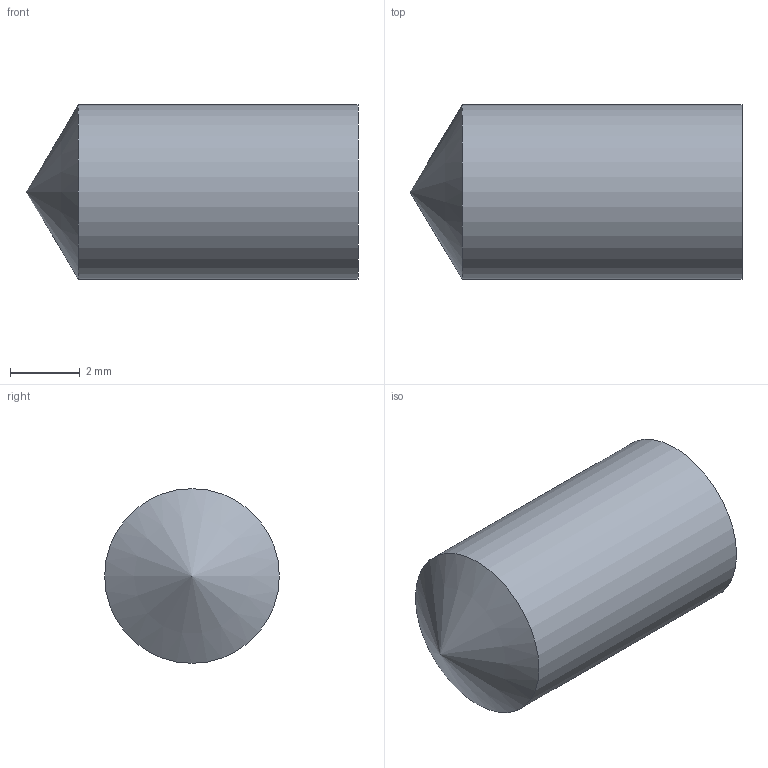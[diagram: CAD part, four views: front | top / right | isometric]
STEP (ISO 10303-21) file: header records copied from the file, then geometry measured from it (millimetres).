
FILE_DESCRIPTION(/* description */ (''),/* implementation_level */ '2;1');
FILE_NAME(/* name */ 'C:\Users\matthiask.LAMELLONET\Desktop\Bohrung_D5x8mm.stp',/* time_stamp */ '2021-07-09T13:12:38+02:00',/* author */ ('matthiask'),/* organization */ (''),/* preprocessor_version */ 'ST-DEVELOPER v18',/* originating_system */ 'Autodesk Inventor 2020',/* authorisation */ '');
FILE_SCHEMA (('AUTOMOTIVE_DESIGN { 1 0 10303 214 3 1 1 }'));
Length unit declared in the file: millimetre
Products named in the file (1): Bohrung D8x13.5
Bounding box: 9.5 x 5 x 5 mm (x, y, z)
Volume: 166.9 mm3; surface area: 168.2 mm2
Topology: 1 solids, 1 shells, 3 faces, 7 edges, 5 vertices
Faces by surface type: plane 1, cone 1, cylinder 1
Full cylindrical faces by diameter (mm): 5 x1
Entity records: 129 total; most frequent: DIRECTION 18, CARTESIAN_POINT 15, ORIENTED_EDGE 12, AXIS2_PLACEMENT_3D 8, EDGE_CURVE 6, VERTEX_POINT 5, CIRCLE 4, FACE_OUTER_BOUND 3
